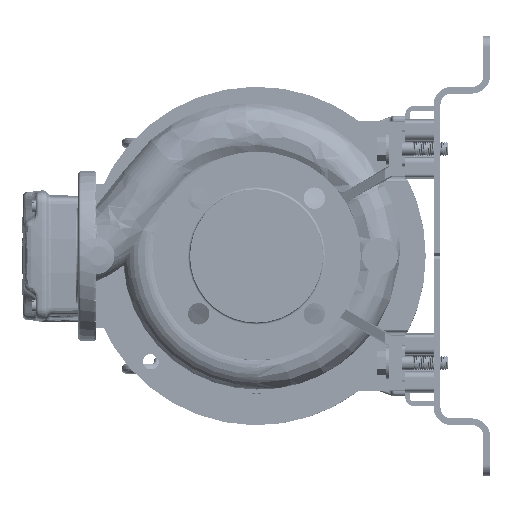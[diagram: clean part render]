
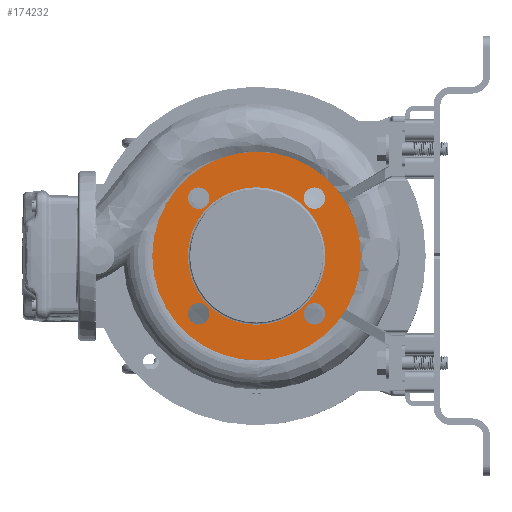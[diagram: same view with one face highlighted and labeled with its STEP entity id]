
A CAD part, left-side view. The second image highlights one B-rep face of the part: STEP entity #174232.
In plain terms, the highlighted planar face has unit normal (-1, 0, 0).
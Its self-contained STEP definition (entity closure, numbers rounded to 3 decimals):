
#6202 = EDGE_LOOP ( 'NONE', ( #42169, #116828 ) ) ;
#6454 = CARTESIAN_POINT ( 'NONE',  ( -105.237, 216.045, 340.389 ) ) ;
#7764 = EDGE_CURVE ( 'NONE', #175417, #134042, #160395, .T. ) ;
#7834 = ORIENTED_EDGE ( 'NONE', *, *, #7764, .F. ) ;
#9019 = FACE_BOUND ( 'NONE', #6202, .T. ) ;
#9187 = CARTESIAN_POINT ( 'NONE',  ( -105.237, 164.78, 289.123 ) ) ;
#10403 = DIRECTION ( 'NONE',  ( -1., 0., 0. ) ) ;
#12754 = CARTESIAN_POINT ( 'NONE',  ( -105.237, 257.28, 289.123 ) ) ;
#14636 = ORIENTED_EDGE ( 'NONE', *, *, #70831, .F. ) ;
#18526 = DIRECTION ( 'NONE',  ( -1., 0., 0. ) ) ;
#22843 = DIRECTION ( 'NONE',  ( -1., 0., 0. ) ) ;
#23662 = DIRECTION ( 'NONE',  ( 0., -1., 0. ) ) ;
#23953 = CIRCLE ( 'NONE', #66377, 61. ) ;
#28009 = DIRECTION ( 'NONE',  ( 0., 1., 0. ) ) ;
#28618 = DIRECTION ( 'NONE',  ( 0., 0., 1. ) ) ;
#31535 = CARTESIAN_POINT ( 'NONE',  ( -105.237, 113.515, 237.858 ) ) ;
#37768 = CIRCLE ( 'NONE', #191995, 61. ) ;
#39050 = AXIS2_PLACEMENT_3D ( 'NONE', #85124, #104412, #123721 ) ;
#39764 = CARTESIAN_POINT ( 'NONE',  ( -105.237, 113.515, 340.389 ) ) ;
#39933 = ORIENTED_EDGE ( 'NONE', *, *, #68911, .F. ) ;
#42169 = ORIENTED_EDGE ( 'NONE', *, *, #59812, .F. ) ;
#50590 = VERTEX_POINT ( 'NONE', #12754 ) ;
#52837 = VERTEX_POINT ( 'NONE', #141136 ) ;
#53366 = AXIS2_PLACEMENT_3D ( 'NONE', #6454, #193363, #195701 ) ;
#54602 = EDGE_CURVE ( 'NONE', #97560, #50590, #93041, .T. ) ;
#56959 = CARTESIAN_POINT ( 'NONE',  ( -105.237, 225.545, 340.389 ) ) ;
#59812 = EDGE_CURVE ( 'NONE', #184522, #145194, #215245, .T. ) ;
#62287 = CARTESIAN_POINT ( 'NONE',  ( -105.237, 164.78, 289.123 ) ) ;
#64479 = CIRCLE ( 'NONE', #226342, 9.5 ) ;
#66377 = AXIS2_PLACEMENT_3D ( 'NONE', #174914, #155626, #190699 ) ;
#66998 = VERTEX_POINT ( 'NONE', #189240 ) ;
#68911 = EDGE_CURVE ( 'NONE', #66998, #165891, #119846, .T. ) ;
#69377 = CARTESIAN_POINT ( 'NONE',  ( -105.237, 123.015, 340.389 ) ) ;
#70831 = EDGE_CURVE ( 'NONE', #52837, #93404, #37768, .T. ) ;
#73477 = EDGE_LOOP ( 'NONE', ( #7834, #211480 ) ) ;
#77256 = DIRECTION ( 'NONE',  ( 0., 0., -1. ) ) ;
#78375 = CARTESIAN_POINT ( 'NONE',  ( -105.237, 225.78, 289.123 ) ) ;
#83814 = FACE_BOUND ( 'NONE', #156743, .T. ) ;
#83974 = DIRECTION ( 'NONE',  ( -1., 0., 0. ) ) ;
#85124 = CARTESIAN_POINT ( 'NONE',  ( -105.237, 164.78, 289.123 ) ) ;
#86876 = ORIENTED_EDGE ( 'NONE', *, *, #177621, .F. ) ;
#89396 = EDGE_CURVE ( 'NONE', #134042, #175417, #143977, .T. ) ;
#92099 = CARTESIAN_POINT ( 'NONE',  ( -105.237, 225.78, 289.123 ) ) ;
#93041 = CIRCLE ( 'NONE', #39050, 92.5 ) ;
#93404 = VERTEX_POINT ( 'NONE', #78375 ) ;
#94789 = CIRCLE ( 'NONE', #183510, 92.5 ) ;
#95352 = DIRECTION ( 'NONE',  ( -1., 0., 0. ) ) ;
#95722 = CIRCLE ( 'NONE', #103462, 9.5 ) ;
#97560 = VERTEX_POINT ( 'NONE', #180263 ) ;
#98229 = ORIENTED_EDGE ( 'NONE', *, *, #54602, .T. ) ;
#100874 = DIRECTION ( 'NONE',  ( -1., 0., 0. ) ) ;
#103462 = AXIS2_PLACEMENT_3D ( 'NONE', #164421, #18526, #107939 ) ;
#103666 = AXIS2_PLACEMENT_3D ( 'NONE', #193984, #231342, #28618 ) ;
#104412 = DIRECTION ( 'NONE',  ( -1., 0., 0. ) ) ;
#105128 = ORIENTED_EDGE ( 'NONE', *, *, #209870, .T. ) ;
#105239 = DIRECTION ( 'NONE',  ( -1., 0., 0. ) ) ;
#107939 = DIRECTION ( 'NONE',  ( 0., 0., 1. ) ) ;
#113506 = CARTESIAN_POINT ( 'NONE',  ( -105.237, 113.515, 340.389 ) ) ;
#115554 = DIRECTION ( 'NONE',  ( 0., 1., 0. ) ) ;
#115715 = CARTESIAN_POINT ( 'NONE',  ( -105.237, 206.545, 237.858 ) ) ;
#116828 = ORIENTED_EDGE ( 'NONE', *, *, #190549, .F. ) ;
#116879 = CARTESIAN_POINT ( 'NONE',  ( -105.237, 104.015, 237.858 ) ) ;
#119846 = CIRCLE ( 'NONE', #189176, 9.5 ) ;
#123721 = DIRECTION ( 'NONE',  ( 0., -1., 0. ) ) ;
#125120 = CARTESIAN_POINT ( 'NONE',  ( -105.237, 206.545, 340.389 ) ) ;
#128090 = EDGE_CURVE ( 'NONE', #232157, #212513, #169160, .T. ) ;
#131872 = CARTESIAN_POINT ( 'NONE',  ( -105.237, 104.015, 340.389 ) ) ;
#133258 = EDGE_CURVE ( 'NONE', #212513, #232157, #95722, .T. ) ;
#133455 = EDGE_LOOP ( 'NONE', ( #98229, #105128 ) ) ;
#133468 = AXIS2_PLACEMENT_3D ( 'NONE', #113506, #95352, #168830 ) ;
#134042 = VERTEX_POINT ( 'NONE', #69377 ) ;
#138269 = ORIENTED_EDGE ( 'NONE', *, *, #133258, .F. ) ;
#138678 = AXIS2_PLACEMENT_3D ( 'NONE', #173246, #10403, #227575 ) ;
#139272 = PLANE ( 'NONE',  #223433 ) ;
#141136 = CARTESIAN_POINT ( 'NONE',  ( -105.237, 103.78, 289.123 ) ) ;
#142202 = EDGE_LOOP ( 'NONE', ( #158830, #138269 ) ) ;
#143977 = CIRCLE ( 'NONE', #166994, 9.5 ) ;
#145194 = VERTEX_POINT ( 'NONE', #56959 ) ;
#150306 = CIRCLE ( 'NONE', #138678, 9.5 ) ;
#151903 = EDGE_CURVE ( 'NONE', #93404, #52837, #23953, .T. ) ;
#155626 = DIRECTION ( 'NONE',  ( -1., 0., 0. ) ) ;
#156743 = EDGE_LOOP ( 'NONE', ( #86876, #39933 ) ) ;
#157291 = FACE_BOUND ( 'NONE', #217408, .T. ) ;
#158830 = ORIENTED_EDGE ( 'NONE', *, *, #128090, .F. ) ;
#160395 = CIRCLE ( 'NONE', #133468, 9.5 ) ;
#164421 = CARTESIAN_POINT ( 'NONE',  ( -105.237, 216.045, 237.858 ) ) ;
#165891 = VERTEX_POINT ( 'NONE', #116879 ) ;
#166994 = AXIS2_PLACEMENT_3D ( 'NONE', #39764, #22843, #77256 ) ;
#168830 = DIRECTION ( 'NONE',  ( 0., 0., -1. ) ) ;
#169160 = CIRCLE ( 'NONE', #103666, 9.5 ) ;
#173246 = CARTESIAN_POINT ( 'NONE',  ( -105.237, 216.045, 340.389 ) ) ;
#173330 = CARTESIAN_POINT ( 'NONE',  ( -105.237, 225.545, 237.858 ) ) ;
#174232 = ADVANCED_FACE ( 'NONE', ( #215190, #83814, #210469, #9019, #157291, #230910 ), #139272, .F. ) ;
#174914 = CARTESIAN_POINT ( 'NONE',  ( -105.237, 164.78, 289.123 ) ) ;
#175417 = VERTEX_POINT ( 'NONE', #131872 ) ;
#177621 = EDGE_CURVE ( 'NONE', #165891, #66998, #64479, .T. ) ;
#180263 = CARTESIAN_POINT ( 'NONE',  ( -105.237, 72.28, 289.123 ) ) ;
#182599 = DIRECTION ( 'NONE',  ( 0., 1., 0. ) ) ;
#183510 = AXIS2_PLACEMENT_3D ( 'NONE', #62287, #100874, #207071 ) ;
#184522 = VERTEX_POINT ( 'NONE', #125120 ) ;
#187927 = DIRECTION ( 'NONE',  ( -1., 0., 0. ) ) ;
#189176 = AXIS2_PLACEMENT_3D ( 'NONE', #31535, #105239, #28009 ) ;
#189240 = CARTESIAN_POINT ( 'NONE',  ( -105.237, 123.015, 237.858 ) ) ;
#190549 = EDGE_CURVE ( 'NONE', #145194, #184522, #150306, .T. ) ;
#190699 = DIRECTION ( 'NONE',  ( 0., -1., 0. ) ) ;
#191995 = AXIS2_PLACEMENT_3D ( 'NONE', #9187, #83974, #23662 ) ;
#193363 = DIRECTION ( 'NONE',  ( -1., 0., 0. ) ) ;
#193984 = CARTESIAN_POINT ( 'NONE',  ( -105.237, 216.045, 237.858 ) ) ;
#195701 = DIRECTION ( 'NONE',  ( 0., -1., 0. ) ) ;
#207071 = DIRECTION ( 'NONE',  ( 0., -1., 0. ) ) ;
#209870 = EDGE_CURVE ( 'NONE', #50590, #97560, #94789, .T. ) ;
#210469 = FACE_BOUND ( 'NONE', #142202, .T. ) ;
#211480 = ORIENTED_EDGE ( 'NONE', *, *, #89396, .F. ) ;
#212513 = VERTEX_POINT ( 'NONE', #173330 ) ;
#215190 = FACE_BOUND ( 'NONE', #73477, .T. ) ;
#215245 = CIRCLE ( 'NONE', #53366, 9.5 ) ;
#217408 = EDGE_LOOP ( 'NONE', ( #14636, #221020 ) ) ;
#221020 = ORIENTED_EDGE ( 'NONE', *, *, #151903, .F. ) ;
#223433 = AXIS2_PLACEMENT_3D ( 'NONE', #92099, #238065, #182599 ) ;
#226342 = AXIS2_PLACEMENT_3D ( 'NONE', #227636, #187927, #115554 ) ;
#227575 = DIRECTION ( 'NONE',  ( 0., -1., 0. ) ) ;
#227636 = CARTESIAN_POINT ( 'NONE',  ( -105.237, 113.515, 237.858 ) ) ;
#230910 = FACE_OUTER_BOUND ( 'NONE', #133455, .T. ) ;
#231342 = DIRECTION ( 'NONE',  ( -1., 0., 0. ) ) ;
#232157 = VERTEX_POINT ( 'NONE', #115715 ) ;
#238065 = DIRECTION ( 'NONE',  ( 1., 0., 0. ) ) ;
